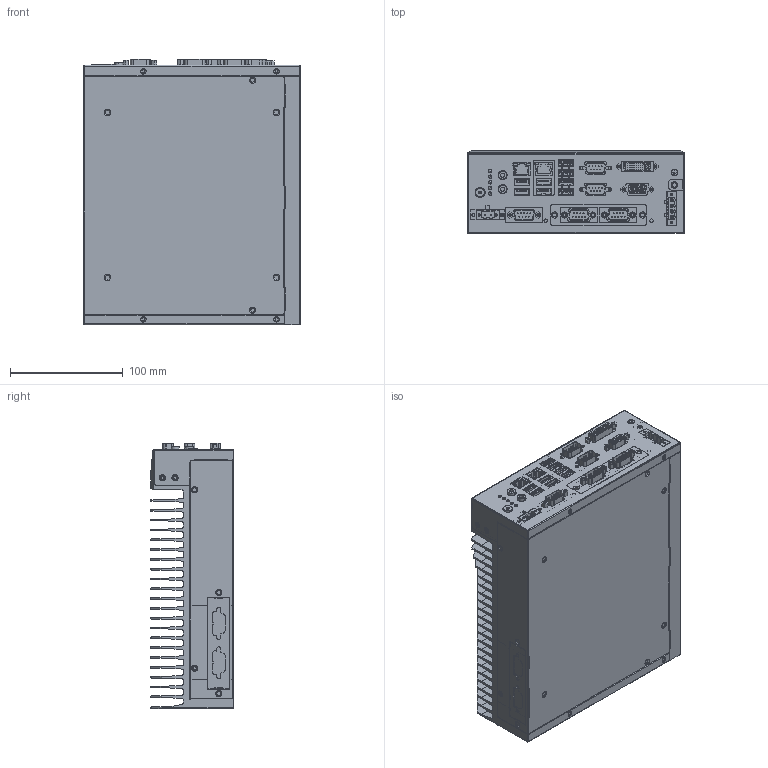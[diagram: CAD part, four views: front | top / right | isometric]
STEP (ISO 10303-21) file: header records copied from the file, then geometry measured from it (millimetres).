
FILE_DESCRIPTION (( 'STEP AP203' ), '1' );
FILE_NAME ('MIC-7300.STEP', '2018-03-21T08:24:21', ( 'itd.mis' ), ( '' ), 'SwSTEP 2.0', 'SolidWorks 2016', '' );
FILE_SCHEMA (( 'CONFIG_CONTROL_DESIGN' ));
Products named in the file (1): MIC-7300
Bounding box: 192 x 73 x 235.3 mm (x, y, z)
Volume: 2230781.3 mm3; surface area: 535770.7 mm2
Topology: 8 solids, 25 shells, 4083 faces, 10774 edges, 6952 vertices
Faces by surface type: plane 2730, cylinder 918, bspline 248, torus 74, cone 72, sphere 41
Entity records: 136929 total; most frequent: CARTESIAN_POINT 37608, ORIENTED_EDGE 21342, DIRECTION 18993, EDGE_CURVE 10671, VECTOR 7849, LINE 7849, VERTEX_POINT 6906, AXIS2_PLACEMENT_3D 5572
